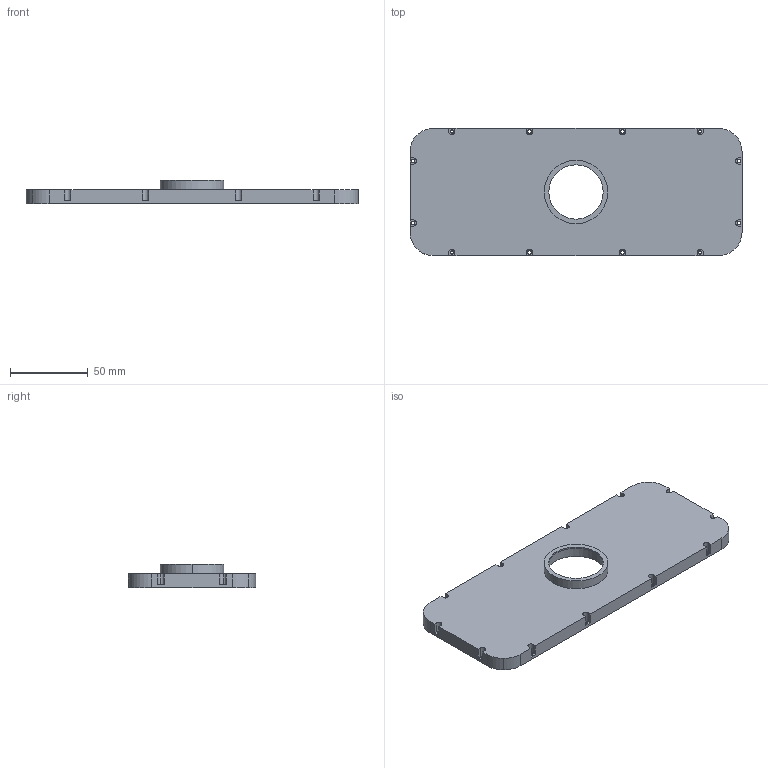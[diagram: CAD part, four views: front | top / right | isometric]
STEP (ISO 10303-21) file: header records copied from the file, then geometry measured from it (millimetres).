
FILE_DESCRIPTION(('STEP AP214'),'1');
FILE_NAME('C:/Users/mashimo/Documents/円弧動エンジン/ボア4.4ｃｍ/TurboCAD/3D/tmp0.STEP','2023-12-27T10:07:04',(' '),(' '),'Spatial InterOp 3D',' ',' ');
FILE_SCHEMA(('automotive_design'));
Length unit declared in the file: millimetre
Products named in the file (1): 1
Bounding box: 214 x 82 x 15 mm (x, y, z)
Volume: 41878.7 mm3; surface area: 44344.1 mm2
Topology: 1 solids, 1 shells, 138 faces, 399 edges, 266 vertices
Faces by surface type: cylinder 77, plane 61
Entity records: 5777 total; most frequent: DIRECTION 831, CARTESIAN_POINT 804, ORIENTED_EDGE 798, EDGE_CURVE 399, AXIS2_PLACEMENT_3D 293, VERTEX_POINT 266, LINE 245, VECTOR 245
